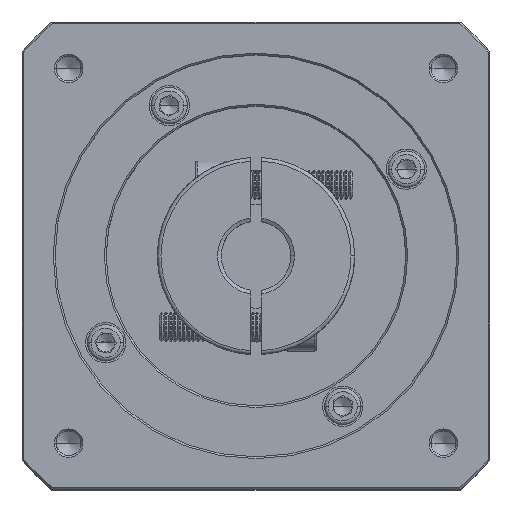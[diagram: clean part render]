
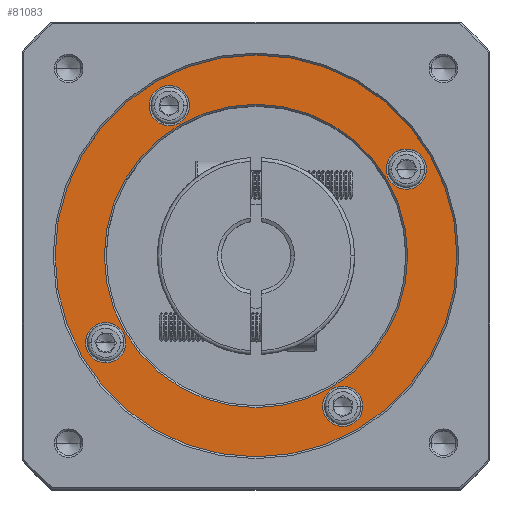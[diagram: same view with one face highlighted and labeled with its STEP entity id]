
A CAD part, top view. The second image highlights one B-rep face of the part: STEP entity #81083.
In plain terms, the highlighted planar face has unit normal (0, 0, 1).
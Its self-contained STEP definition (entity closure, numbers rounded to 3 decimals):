
#572 = DIRECTION ( 'NONE',  ( 1., 0., 0. ) ) ;
#925 = DIRECTION ( 'NONE',  ( 0., 0., 1. ) ) ;
#1135 = EDGE_CURVE ( 'NONE', #27697, #49351, #81729, .T. ) ;
#1548 = VERTEX_POINT ( 'NONE', #18806 ) ;
#1914 = VERTEX_POINT ( 'NONE', #115570 ) ;
#5085 = CARTESIAN_POINT ( 'NONE',  ( 86.427, 102.612, 75.911 ) ) ;
#5311 = CARTESIAN_POINT ( 'NONE',  ( 103.813, 167.498, 75.911 ) ) ;
#6770 = ORIENTED_EDGE ( 'NONE', *, *, #92390, .T. ) ;
#7090 = FACE_BOUND ( 'NONE', #114999, .T. ) ;
#9205 = DIRECTION ( 'NONE',  ( 1., 0., 0. ) ) ;
#9880 = CARTESIAN_POINT ( 'NONE',  ( 21.541, 119.998, 75.911 ) ) ;
#9966 = PLANE ( 'NONE',  #69017 ) ;
#11103 = CIRCLE ( 'NONE', #40872, 5.5 ) ;
#13108 = EDGE_CURVE ( 'NONE', #36014, #90393, #11103, .T. ) ;
#13874 = CARTESIAN_POINT ( 'NONE',  ( 27.041, 119.998, 75.911 ) ) ;
#14481 = DIRECTION ( 'NONE',  ( 1., 0., 0. ) ) ;
#14708 = DIRECTION ( 'NONE',  ( 1., 0., 0. ) ) ;
#14726 = CARTESIAN_POINT ( 'NONE',  ( 80.927, 102.612, 75.911 ) ) ;
#17554 = ORIENTED_EDGE ( 'NONE', *, *, #13108, .T. ) ;
#18017 = CARTESIAN_POINT ( 'NONE',  ( 38.927, 184.884, 75.911 ) ) ;
#18806 = CARTESIAN_POINT ( 'NONE',  ( 98.313, 167.498, 75.911 ) ) ;
#19295 = DIRECTION ( 'NONE',  ( 1., 0., 0. ) ) ;
#25727 = CARTESIAN_POINT ( 'NONE',  ( 62.677, 143.748, 75.911 ) ) ;
#25737 = EDGE_CURVE ( 'NONE', #72265, #79752, #45931, .T. ) ;
#27113 = CARTESIAN_POINT ( 'NONE',  ( 44.427, 184.884, 75.911 ) ) ;
#27438 = DIRECTION ( 'NONE',  ( 1., 0., 0. ) ) ;
#27697 = VERTEX_POINT ( 'NONE', #60001 ) ;
#28452 = CARTESIAN_POINT ( 'NONE',  ( 91.927, 102.612, 75.911 ) ) ;
#29063 = FACE_BOUND ( 'NONE', #38283, .T. ) ;
#30260 = DIRECTION ( 'NONE',  ( 0., 0., -1. ) ) ;
#30694 = CARTESIAN_POINT ( 'NONE',  ( 117.677, 143.748, 75.911 ) ) ;
#31219 = EDGE_CURVE ( 'NONE', #49351, #27697, #73907, .T. ) ;
#32038 = FACE_BOUND ( 'NONE', #113178, .T. ) ;
#33800 = ORIENTED_EDGE ( 'NONE', *, *, #41592, .T. ) ;
#35207 = DIRECTION ( 'NONE',  ( 1., 0., 0. ) ) ;
#35897 = CARTESIAN_POINT ( 'NONE',  ( 103.813, 167.498, 75.911 ) ) ;
#36014 = VERTEX_POINT ( 'NONE', #27113 ) ;
#37853 = CARTESIAN_POINT ( 'NONE',  ( 62.677, 102.248, 75.911 ) ) ;
#38283 = EDGE_LOOP ( 'NONE', ( #33800, #66468 ) ) ;
#38638 = AXIS2_PLACEMENT_3D ( 'NONE', #44162, #109900, #55258 ) ;
#40872 = AXIS2_PLACEMENT_3D ( 'NONE', #18017, #83718, #27438 ) ;
#41592 = EDGE_CURVE ( 'NONE', #104865, #88119, #109317, .T. ) ;
#42722 = ORIENTED_EDGE ( 'NONE', *, *, #74836, .T. ) ;
#43542 = AXIS2_PLACEMENT_3D ( 'NONE', #5311, #70965, #14708 ) ;
#44162 = CARTESIAN_POINT ( 'NONE',  ( 62.677, 143.748, 75.911 ) ) ;
#45306 = DIRECTION ( 'NONE',  ( 1., 0., 0. ) ) ;
#45931 = CIRCLE ( 'NONE', #82428, 5.5 ) ;
#46301 = DIRECTION ( 'NONE',  ( 0., 0., -1. ) ) ;
#46621 = VERTEX_POINT ( 'NONE', #54994 ) ;
#47664 = CIRCLE ( 'NONE', #48384, 5.5 ) ;
#48384 = AXIS2_PLACEMENT_3D ( 'NONE', #86499, #30260, #96077 ) ;
#48704 = VERTEX_POINT ( 'NONE', #37853 ) ;
#49351 = VERTEX_POINT ( 'NONE', #30694 ) ;
#49501 = CARTESIAN_POINT ( 'NONE',  ( 62.677, 143.748, 75.911 ) ) ;
#49861 = CARTESIAN_POINT ( 'NONE',  ( 16.041, 119.998, 75.911 ) ) ;
#52429 = ORIENTED_EDGE ( 'NONE', *, *, #25737, .T. ) ;
#53186 = AXIS2_PLACEMENT_3D ( 'NONE', #121659, #65393, #9205 ) ;
#54049 = FACE_BOUND ( 'NONE', #98742, .T. ) ;
#54856 = AXIS2_PLACEMENT_3D ( 'NONE', #5085, #70735, #14481 ) ;
#54994 = CARTESIAN_POINT ( 'NONE',  ( 62.677, 185.248, 75.911 ) ) ;
#55258 = DIRECTION ( 'NONE',  ( 0., -1., 0. ) ) ;
#56797 = DIRECTION ( 'NONE',  ( 0., 0., -1. ) ) ;
#56866 = EDGE_LOOP ( 'NONE', ( #92393, #64286 ) ) ;
#57004 = FACE_OUTER_BOUND ( 'NONE', #56866, .T. ) ;
#57161 = CARTESIAN_POINT ( 'NONE',  ( 62.677, 143.748, 75.911 ) ) ;
#58926 = DIRECTION ( 'NONE',  ( 1., 0., 0. ) ) ;
#60001 = CARTESIAN_POINT ( 'NONE',  ( 7.677, 143.748, 75.911 ) ) ;
#64286 = ORIENTED_EDGE ( 'NONE', *, *, #1135, .T. ) ;
#65393 = DIRECTION ( 'NONE',  ( 0., 0., -1. ) ) ;
#65668 = CIRCLE ( 'NONE', #53186, 5.5 ) ;
#66468 = ORIENTED_EDGE ( 'NONE', *, *, #109794, .T. ) ;
#66567 = DIRECTION ( 'NONE',  ( 1., 0., 0. ) ) ;
#66610 = AXIS2_PLACEMENT_3D ( 'NONE', #49501, #115233, #58926 ) ;
#67176 = CIRCLE ( 'NONE', #38638, 41.5 ) ;
#68741 = ORIENTED_EDGE ( 'NONE', *, *, #89263, .T. ) ;
#69017 = AXIS2_PLACEMENT_3D ( 'NONE', #57161, #925, #66567 ) ;
#69503 = EDGE_CURVE ( 'NONE', #1914, #1548, #83261, .T. ) ;
#70735 = DIRECTION ( 'NONE',  ( 0., 0., -1. ) ) ;
#70965 = DIRECTION ( 'NONE',  ( 0., 0., -1. ) ) ;
#72265 = VERTEX_POINT ( 'NONE', #14726 ) ;
#73907 = CIRCLE ( 'NONE', #66610, 55. ) ;
#74080 = AXIS2_PLACEMENT_3D ( 'NONE', #35897, #101667, #45306 ) ;
#74836 = EDGE_CURVE ( 'NONE', #1548, #1914, #88878, .T. ) ;
#75518 = DIRECTION ( 'NONE',  ( 0., 0., -1. ) ) ;
#79752 = VERTEX_POINT ( 'NONE', #28452 ) ;
#81083 = ADVANCED_FACE ( 'NONE', ( #57004, #7090, #32038, #104126, #54049, #29063 ), #9966, .T. ) ;
#81729 = CIRCLE ( 'NONE', #87310, 55. ) ;
#82428 = AXIS2_PLACEMENT_3D ( 'NONE', #113090, #56797, #572 ) ;
#83261 = CIRCLE ( 'NONE', #43542, 5.5 ) ;
#83718 = DIRECTION ( 'NONE',  ( 0., 0., -1. ) ) ;
#84147 = ORIENTED_EDGE ( 'NONE', *, *, #103420, .T. ) ;
#86131 = CARTESIAN_POINT ( 'NONE',  ( 33.427, 184.884, 75.911 ) ) ;
#86499 = CARTESIAN_POINT ( 'NONE',  ( 21.541, 119.998, 75.911 ) ) ;
#86921 = CIRCLE ( 'NONE', #118414, 41.5 ) ;
#87310 = AXIS2_PLACEMENT_3D ( 'NONE', #25727, #91511, #35207 ) ;
#88119 = VERTEX_POINT ( 'NONE', #49861 ) ;
#88878 = CIRCLE ( 'NONE', #74080, 5.5 ) ;
#89263 = EDGE_CURVE ( 'NONE', #48704, #46621, #67176, .T. ) ;
#90393 = VERTEX_POINT ( 'NONE', #86131 ) ;
#91511 = DIRECTION ( 'NONE',  ( 0., 0., 1. ) ) ;
#92390 = EDGE_CURVE ( 'NONE', #90393, #36014, #65668, .T. ) ;
#92393 = ORIENTED_EDGE ( 'NONE', *, *, #31219, .T. ) ;
#96077 = DIRECTION ( 'NONE',  ( 1., 0., 0. ) ) ;
#98742 = EDGE_LOOP ( 'NONE', ( #17554, #6770 ) ) ;
#99369 = EDGE_CURVE ( 'NONE', #79752, #72265, #117250, .T. ) ;
#101667 = DIRECTION ( 'NONE',  ( 0., 0., -1. ) ) ;
#102303 = ORIENTED_EDGE ( 'NONE', *, *, #99369, .T. ) ;
#102512 = EDGE_LOOP ( 'NONE', ( #102303, #52429 ) ) ;
#102654 = CARTESIAN_POINT ( 'NONE',  ( 62.677, 143.748, 75.911 ) ) ;
#103420 = EDGE_CURVE ( 'NONE', #46621, #48704, #86921, .T. ) ;
#104126 = FACE_BOUND ( 'NONE', #102512, .T. ) ;
#104865 = VERTEX_POINT ( 'NONE', #13874 ) ;
#108865 = AXIS2_PLACEMENT_3D ( 'NONE', #9880, #75518, #19295 ) ;
#109317 = CIRCLE ( 'NONE', #108865, 5.5 ) ;
#109794 = EDGE_CURVE ( 'NONE', #88119, #104865, #47664, .T. ) ;
#109900 = DIRECTION ( 'NONE',  ( 0., 0., -1. ) ) ;
#110356 = ORIENTED_EDGE ( 'NONE', *, *, #69503, .T. ) ;
#112051 = DIRECTION ( 'NONE',  ( 0., -1., 0. ) ) ;
#113090 = CARTESIAN_POINT ( 'NONE',  ( 86.427, 102.612, 75.911 ) ) ;
#113178 = EDGE_LOOP ( 'NONE', ( #110356, #42722 ) ) ;
#114999 = EDGE_LOOP ( 'NONE', ( #68741, #84147 ) ) ;
#115233 = DIRECTION ( 'NONE',  ( 0., 0., 1. ) ) ;
#115570 = CARTESIAN_POINT ( 'NONE',  ( 109.313, 167.498, 75.911 ) ) ;
#117250 = CIRCLE ( 'NONE', #54856, 5.5 ) ;
#118414 = AXIS2_PLACEMENT_3D ( 'NONE', #102654, #46301, #112051 ) ;
#121659 = CARTESIAN_POINT ( 'NONE',  ( 38.927, 184.884, 75.911 ) ) ;
